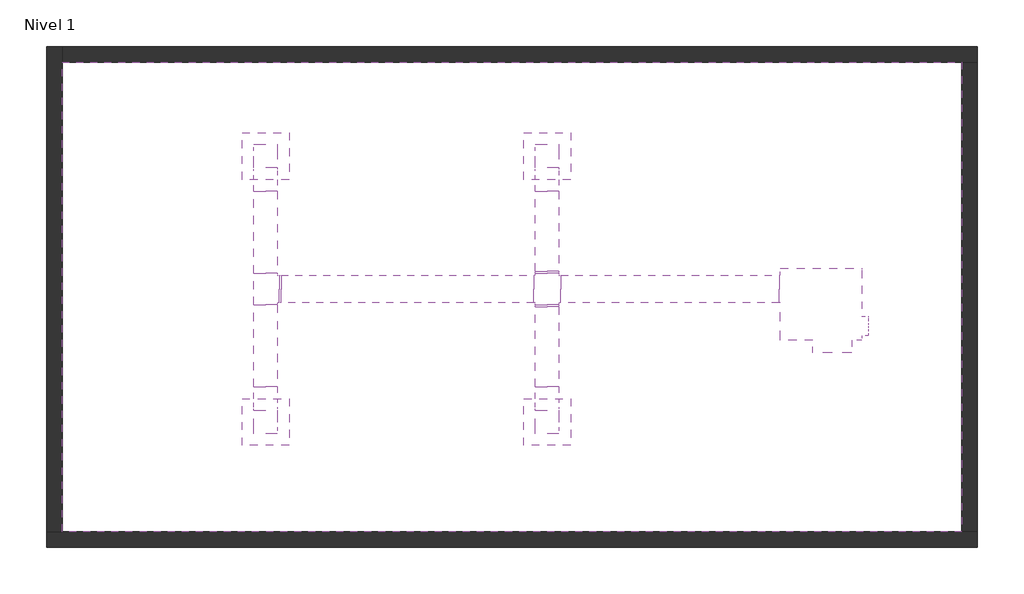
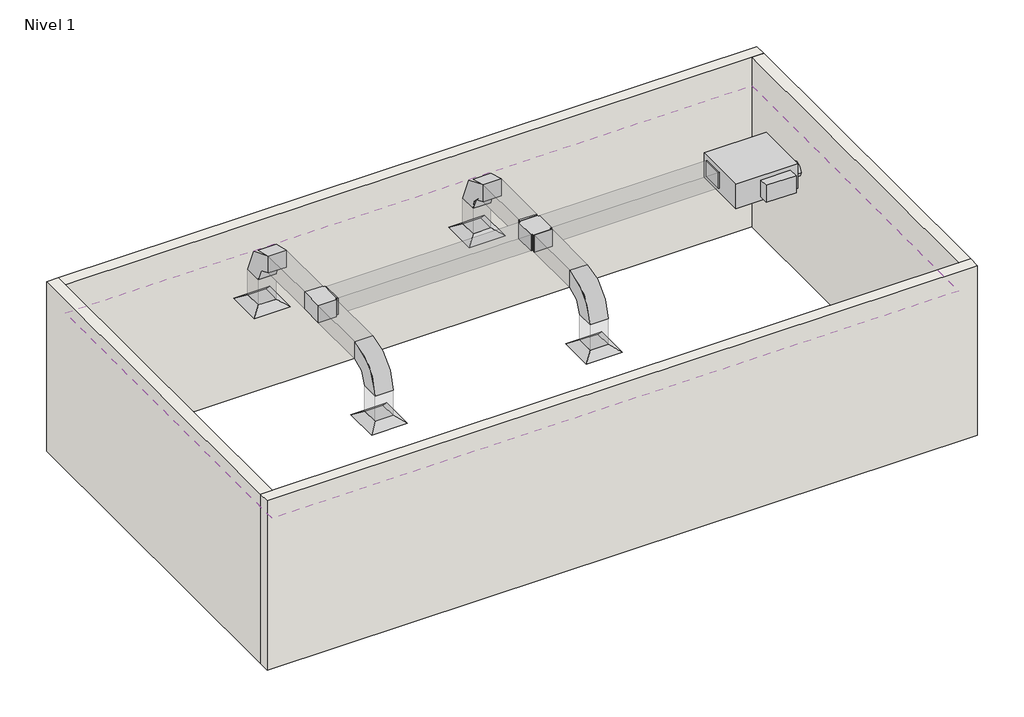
# One storey: 10 duct segments, 9 duct fittings, 4 air terminals, 4 walls, 1 covering, 1 proxy.
"""IFC4 building model written with IfcOpenShell, lengths in millimetres."""

from ifc_helpers import new_model, si_unit, frame, origin, origin_with_axes, place, context, project, spatial, polyline, outline, extrude, faceted_brep, transform, mapped, element, save
from components import air_terminal_ff221211, mechanical_equipment_cafec42d, duct_fitting_45_grados_f90a5325, duct_fitting_45_grados_729889f1, m_codo_rectangular_radio_1_5_w_7230ff9a, norma_0d3456c6, norma_aa79a1d3

model = new_model("IFC4")

# Units and contexts
model_context = context("Model", 3, world=origin())
ifc_project = project(units=[si_unit("LENGTHUNIT", "METRE", prefix="MILLI")], contexts=[model_context])

# Site, building, storey
site = spatial("IfcSite", under=ifc_project)
building = spatial("IfcBuilding", under=site)
storey = spatial("IfcBuildingStorey", under=building, Name="Nivel 1", Elevation=0.0)

# Air terminals
placement = place(None, origin())
air_terminal_shape = air_terminal_ff221211(model_context)
element("IfcAirTerminal", 1, ObjectType="M_Difusor de suministro : Cara 600 x 600 Conexión 300 x 300", at=placement, inside=storey, context=model_context, shape_type="MappedRepresentation", body=[
    mapped(air_terminal_shape, transform((-116.1538462, 5337.3397436, 2500.0), x_axis=(1.0, 0.0, 0.0), y_axis=(0.0, 1.0, 0.0), z_axis=(0.0, 0.0, 1.0))),
])
element("IfcAirTerminal", 2, ObjectType="M_Difusor de suministro : Cara 600 x 600 Conexión 300 x 300", at=placement, inside=storey, context=model_context, shape_type="MappedRepresentation", body=[
    mapped(air_terminal_shape, transform((3483.8461538, 5337.3397436, 2500.0), x_axis=(1.0, 0.0, 0.0), y_axis=(0.0, 1.0, 0.0), z_axis=(0.0, 0.0, 1.0))),
])
element("IfcAirTerminal", 3, ObjectType="M_Difusor de suministro : Cara 600 x 600 Conexión 300 x 300", at=placement, inside=storey, context=model_context, shape_type="MappedRepresentation", body=[
    mapped(air_terminal_shape, transform((3483.8461538, 1937.3397436, 2500.0), x_axis=(1.0, 0.0, 0.0), y_axis=(0.0, 1.0, 0.0), z_axis=(0.0, 0.0, 1.0))),
])
element("IfcAirTerminal", 4, ObjectType="M_Difusor de suministro : Cara 600 x 600 Conexión 300 x 300", at=placement, inside=storey, context=model_context, shape_type="MappedRepresentation", body=[
    mapped(air_terminal_shape, transform((-116.1538462, 1937.3397436, 2500.0), x_axis=(1.0, 0.0, 0.0), y_axis=(0.0, 1.0, 0.0), z_axis=(0.0, 0.0, 1.0))),
])

# Proxy
mechanical_equipment_shape = mechanical_equipment_cafec42d(model_context)
element("IfcBuildingElementProxy", 5, Name="M_Unidad VAV - Alimentada por ventilador paralelo : Tamaño 4 - Entrada 250 mm", ObjectType="M_Unidad VAV - Alimentada por ventilador paralelo : Tamaño 4 - Entrada 250 mm", at=placement, inside=storey, context=model_context, shape_type="MappedRepresentation", body=[
    mapped(mechanical_equipment_shape, transform((6983.8461538, 3442.3397436, 3500.0), x_axis=(-1.0, 0.0, 0.0), y_axis=(0.0, -1.0, 0.0), z_axis=(0.0, 0.0, 1.0))),
])

# Covering
element("IfcCovering", 6, ObjectType="Rejilla 600 x 600 mm", at=placement, inside=storey, context=model_context, shape_type="SweptSolid", body=[
    extrude(outline(polyline([(8783.8461538, 537.3397436), (-2716.1538462, 537.3397436), (-2716.1538462, 6537.3397436), (8783.8461538, 6537.3397436), (8783.8461538, 537.3397436)])), frame((0.0, 0.0, 2500.0), z_axis=(0.0, 0.0, 1.0), x_axis=(1.0, 0.0, 0.0)), (0.0, 0.0, 1.0), 52.0),
])

# Duct fittings
duct_fitting_45_grados_shape = duct_fitting_45_grados_f90a5325(model_context)
element("IfcDuctFitting", 7, ObjectType="M_Transición rectangular - Ángulo : 45 grados", at=placement, inside=storey, context=model_context, shape_type="MappedRepresentation", body=[
    mapped(duct_fitting_45_grados_shape, transform((3483.8461538, 3837.3397436, 3500.0), x_axis=(0.0, 1.0, 0.0), y_axis=(-1.0, 0.0, 0.0), z_axis=(0.0, 0.0, 1.0))),
])
element("IfcDuctFitting", 8, ObjectType="M_Transición rectangular - Ángulo : 45 grados", at=placement, inside=storey, context=model_context, shape_type="MappedRepresentation", body=[
    mapped(duct_fitting_45_grados_shape, transform((3483.8461538, 3437.3397436, 3500.0), x_axis=(0.0, -1.0, 0.0), y_axis=(1.0, 0.0, 0.0), z_axis=(0.0, 0.0, 1.0))),
])
duct_fitting_45_grados_2_shape = duct_fitting_45_grados_729889f1(model_context)
element("IfcDuctFitting", 9, ObjectType="M_Transición rectangular - Ángulo : 45 grados", at=placement, inside=storey, context=model_context, shape_type="MappedRepresentation", body=[
    mapped(duct_fitting_45_grados_2_shape, transform((58.8461538, 3637.3397436, 3500.0), x_axis=(1.0, 0.0, 0.0), y_axis=(0.0, 1.0, 0.0), z_axis=(0.0, 0.0, 1.0))),
])
m_codo_rectangular_radio_1_5_w_shape = m_codo_rectangular_radio_1_5_w_7230ff9a(model_context)
element("IfcDuctFitting", 10, ObjectType="M_Codo rectangular - Radio : 1.5 W", at=placement, inside=storey, context=model_context, shape_type="MappedRepresentation", body=[
    mapped(m_codo_rectangular_radio_1_5_w_shape, transform((-116.1538462, 5337.3397436, 3500.0), x_axis=(0.0, 0.0, 1.0), y_axis=(0.0, -1.0, 0.0), z_axis=(1.0, 0.0, 0.0))),
])
element("IfcDuctFitting", 11, ObjectType="M_Codo rectangular - Radio : 1.5 W", at=placement, inside=storey, context=model_context, shape_type="MappedRepresentation", body=[
    mapped(m_codo_rectangular_radio_1_5_w_shape, transform((-116.1538462, 1937.3397436, 3500.0), x_axis=(0.0, 0.0, 1.0), y_axis=(0.0, 1.0, 0.0), z_axis=(-1.0, 0.0, 0.0))),
])
element("IfcDuctFitting", 12, ObjectType="M_Codo rectangular - Radio : 1.5 W", at=placement, inside=storey, context=model_context, shape_type="MappedRepresentation", body=[
    mapped(m_codo_rectangular_radio_1_5_w_shape, transform((3483.8461538, 5337.3397436, 3500.0), x_axis=(0.0, 0.0, 1.0), y_axis=(0.0, -1.0, 0.0), z_axis=(1.0, 0.0, 0.0))),
])
element("IfcDuctFitting", 13, ObjectType="M_Codo rectangular - Radio : 1.5 W", at=placement, inside=storey, context=model_context, shape_type="MappedRepresentation", body=[
    mapped(m_codo_rectangular_radio_1_5_w_shape, transform((3483.8461538, 1937.3397436, 3500.0), x_axis=(0.0, 0.0, 1.0), y_axis=(0.0, 1.0, 0.0), z_axis=(-1.0, 0.0, 0.0))),
])
norma_shape = norma_0d3456c6(model_context)
element("IfcDuctFitting", 14, ObjectType="M_Cruz rectangular : Norma", at=placement, inside=storey, context=model_context, shape_type="MappedRepresentation", body=[
    mapped(norma_shape, transform((3483.8461538, 3637.3397436, 3500.0), x_axis=(1.0, 0.0, 0.0), y_axis=(0.0, 1.0, 0.0), z_axis=(0.0, 0.0, 1.0))),
])
norma_2_shape = norma_aa79a1d3(model_context)
element("IfcDuctFitting", 15, ObjectType="M_Te rectangular : Norma", at=placement, inside=storey, context=model_context, shape_type="MappedRepresentation", body=[
    mapped(norma_2_shape, transform((-116.1538462, 3637.3397436, 3500.0), x_axis=(0.0, 1.0, 0.0), y_axis=(-1.0, 0.0, 0.0), z_axis=(0.0, 0.0, 1.0))),
])

# Duct segments
element("IfcDuctSegment", 16, ObjectType="Codos / Tes", at=placement, inside=storey, context=model_context, shape_type="SweptSolid", body=[
    extrude(outline(polyline([(3658.8461538, 3462.3397436), (3658.8461538, 3812.3397436), (6448.8461538, 3812.3397436), (6448.8461538, 3462.3397436), (3658.8461538, 3462.3397436)])), frame((0.0, 0.0, 3360.0), z_axis=(0.0, 0.0, 1.0), x_axis=(1.0, 0.0, 0.0)), (0.0, 0.0, 1.0), 280.0),
])
element("IfcDuctSegment", 17, ObjectType="Codos / Tes", at=placement, inside=storey, context=model_context, shape_type="SweptSolid", body=[
    extrude(outline(polyline([(82.9882895, 3462.3397436), (82.9882895, 3812.3397436), (3308.8461538, 3812.3397436), (3308.8461538, 3462.3397436), (82.9882895, 3462.3397436)])), frame((0.0, 0.0, 3360.0), z_axis=(0.0, 0.0, 1.0), x_axis=(1.0, 0.0, 0.0)), (0.0, 0.0, 1.0), 280.0),
])
element("IfcDuctSegment", 18, ObjectType="Codos / Tes", at=placement, inside=storey, context=model_context, shape_type="SweptSolid", body=[
    extrude(outline(polyline([(33.8461538, 3837.3397436), (-266.1538462, 3837.3397436), (-266.1538462, 4887.3397436), (33.8461538, 4887.3397436), (33.8461538, 3837.3397436)])), frame((0.0, 0.0, 3350.0), z_axis=(0.0, 0.0, 1.0), x_axis=(1.0, 0.0, 0.0)), (0.0, 0.0, 1.0), 300.0),
])
element("IfcDuctSegment", 19, ObjectType="Codos / Tes", at=placement, inside=storey, context=model_context, shape_type="SweptSolid", body=[
    extrude(outline(polyline([(3633.8461538, 3861.4818792), (3333.8461538, 3861.4818792), (3333.8461538, 4887.3397436), (3633.8461538, 4887.3397436), (3633.8461538, 3861.4818792)])), frame((0.0, 0.0, 3350.0), z_axis=(0.0, 0.0, 1.0), x_axis=(1.0, 0.0, 0.0)), (0.0, 0.0, 1.0), 300.0),
])
element("IfcDuctSegment", 20, ObjectType="Codos / Tes", at=placement, inside=storey, context=model_context, shape_type="SweptSolid", body=[
    extrude(outline(polyline([(3333.8461538, 3413.197608), (3633.8461538, 3413.197608), (3633.8461538, 2387.3397436), (3333.8461538, 2387.3397436), (3333.8461538, 3413.197608)])), frame((0.0, 0.0, 3350.0), z_axis=(0.0, 0.0, 1.0), x_axis=(1.0, 0.0, 0.0)), (0.0, 0.0, 1.0), 300.0),
])
element("IfcDuctSegment", 21, ObjectType="Codos / Tes", at=placement, inside=storey, context=model_context, shape_type="SweptSolid", body=[
    extrude(outline(polyline([(-266.1538462, 3437.3397436), (33.8461538, 3437.3397436), (33.8461538, 2387.3397436), (-266.1538462, 2387.3397436), (-266.1538462, 3437.3397436)])), frame((0.0, 0.0, 3350.0), z_axis=(0.0, 0.0, 1.0), x_axis=(1.0, 0.0, 0.0)), (0.0, 0.0, 1.0), 300.0),
])
element("IfcDuctSegment", 22, ObjectType="Codos / Tes", at=placement, inside=storey, context=model_context, shape_type="SweptSolid", body=[
    extrude(outline(polyline([(33.8461538, 5187.3397436), (-266.1538462, 5187.3397436), (-266.1538462, 5487.3397436), (33.8461538, 5487.3397436), (33.8461538, 5187.3397436)])), frame((0.0, 0.0, 2601.6), z_axis=(0.0, 0.0, 1.0), x_axis=(1.0, 0.0, 0.0)), (0.0, 0.0, 1.0), 448.4),
])
element("IfcDuctSegment", 23, ObjectType="Codos / Tes", at=placement, inside=storey, context=model_context, shape_type="SweptSolid", body=[
    extrude(outline(polyline([(-266.1538462, 2087.3397436), (33.8461538, 2087.3397436), (33.8461538, 1787.3397436), (-266.1538462, 1787.3397436), (-266.1538462, 2087.3397436)])), frame((0.0, 0.0, 2601.6), z_axis=(0.0, 0.0, 1.0), x_axis=(1.0, 0.0, 0.0)), (0.0, 0.0, 1.0), 448.4),
])
element("IfcDuctSegment", 24, ObjectType="Codos / Tes", at=placement, inside=storey, context=model_context, shape_type="SweptSolid", body=[
    extrude(outline(polyline([(3633.8461538, 5187.3397436), (3333.8461538, 5187.3397436), (3333.8461538, 5487.3397436), (3633.8461538, 5487.3397436), (3633.8461538, 5187.3397436)])), frame((0.0, 0.0, 2601.6), z_axis=(0.0, 0.0, 1.0), x_axis=(1.0, 0.0, 0.0)), (0.0, 0.0, 1.0), 448.4),
])
element("IfcDuctSegment", 25, ObjectType="Codos / Tes", at=placement, inside=storey, context=model_context, shape_type="SweptSolid", body=[
    extrude(outline(polyline([(3333.8461538, 2087.3397436), (3633.8461538, 2087.3397436), (3633.8461538, 1787.3397436), (3333.8461538, 1787.3397436), (3333.8461538, 2087.3397436)])), frame((0.0, 0.0, 2601.6), z_axis=(0.0, 0.0, 1.0), x_axis=(1.0, 0.0, 0.0)), (0.0, 0.0, 1.0), 448.4),
])

# Walls
element("IfcWall", 26, ObjectType="Genérico - 200 mm", at=placement, inside=storey, context=model_context, shape_type="Brep", body=[
    faceted_brep([(8983.8461538, 537.3397436, 0.0), (8783.8461538, 537.3397436, 0.0), (-2716.1538462, 537.3397436, 0.0), (-2916.1538462, 537.3397436, 0.0), (-2916.1538462, 537.3397436, 3000.0), (-2716.1538462, 537.3397436, 3000.0), (8783.8461538, 537.3397436, 3000.0), (8983.8461538, 537.3397436, 3000.0), (8983.8461538, 337.3397436, 0.0), (8983.8461538, 337.3397436, 3000.0), (-2916.1538462, 337.3397436, 3000.0), (-2916.1538462, 337.3397436, 0.0)], [[[0, 1, 2, 3, 4, 5, 6, 7]], [[8, 9, 10, 11]], [[3, 2, 1, 0, 8, 11]], [[7, 6, 5, 4, 10, 9]], [[4, 3, 11, 10]], [[0, 7, 9, 8]]]),
])
element("IfcWall", 27, ObjectType="Genérico - 200 mm", at=placement, inside=storey, context=model_context, shape_type="Brep", body=[
    faceted_brep([(-2716.1538462, 537.3397436, 0.0), (-2716.1538462, 6537.3397436, 0.0), (-2716.1538462, 6737.3397436, 0.0), (-2716.1538462, 6737.3397436, 3000.0), (-2716.1538462, 6537.3397436, 3000.0), (-2716.1538462, 537.3397436, 3000.0), (-2916.1538462, 537.3397436, 0.0), (-2916.1538462, 537.3397436, 3000.0), (-2916.1538462, 6737.3397436, 3000.0), (-2916.1538462, 6737.3397436, 0.0)], [[[0, 1, 2, 3, 4, 5]], [[6, 7, 8, 9]], [[2, 1, 0, 6, 9]], [[5, 4, 3, 8, 7]], [[0, 5, 7, 6]], [[3, 2, 9, 8]]]),
])
element("IfcWall", 28, ObjectType="Genérico - 200 mm", at=placement, inside=storey, context=model_context, shape_type="Brep", body=[
    faceted_brep([(-2716.1538462, 6537.3397436, 0.0), (8783.8461538, 6537.3397436, 0.0), (8983.8461538, 6537.3397436, 0.0), (8983.8461538, 6537.3397436, 3000.0), (8783.8461538, 6537.3397436, 3000.0), (-2716.1538462, 6537.3397436, 3000.0), (-2716.1538462, 6737.3397436, 0.0), (-2716.1538462, 6737.3397436, 3000.0), (8983.8461538, 6737.3397436, 3000.0), (8983.8461538, 6737.3397436, 0.0)], [[[0, 1, 2, 3, 4, 5]], [[6, 7, 8, 9]], [[2, 1, 0, 6, 9]], [[5, 4, 3, 8, 7]], [[0, 5, 7, 6]], [[3, 2, 9, 8]]]),
])
element("IfcWall", 29, ObjectType="Genérico - 200 mm", at=placement, inside=storey, context=model_context, shape_type="SweptSolid", body=[
    extrude(outline(polyline([(8783.8461538, 537.3397436), (8783.8461538, 6537.3397436), (8983.8461538, 6537.3397436), (8983.8461538, 537.3397436), (8783.8461538, 537.3397436)])), origin_with_axes(), (0.0, 0.0, 1.0), 3000.0),
])

save(model, "model.ifc")
